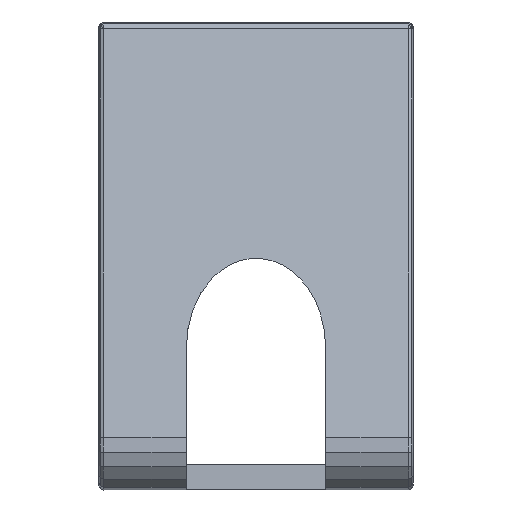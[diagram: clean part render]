
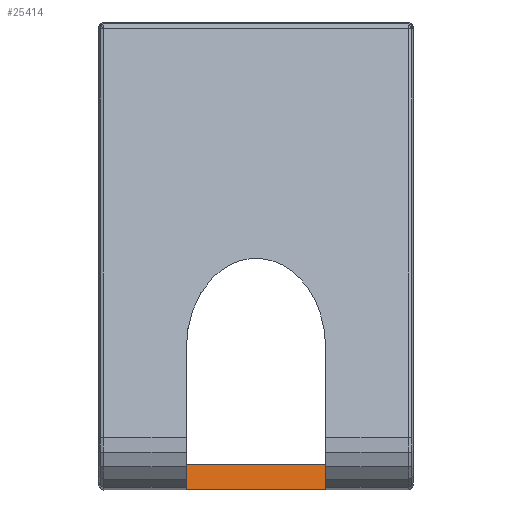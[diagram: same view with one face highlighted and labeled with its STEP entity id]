
A CAD part, left-side view. The second image highlights one B-rep face of the part: STEP entity #25414.
In plain terms, the highlighted planar face has unit normal (-0.414, -0.001, 0.91).
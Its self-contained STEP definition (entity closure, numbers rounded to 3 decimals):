
#838 = PLANE('',#839);
#839 = AXIS2_PLACEMENT_3D('',#840,#841,#842);
#840 = CARTESIAN_POINT('',(-26.248,15.067,-25.934));
#841 = DIRECTION('',(-0.,1.,0.));
#842 = DIRECTION('',(0.,0.,-1.));
#1358 = PLANE('',#1359);
#1359 = AXIS2_PLACEMENT_3D('',#1360,#1361,#1362);
#1360 = CARTESIAN_POINT('',(-26.242,-15.067,-25.934));
#1361 = DIRECTION('',(-0.,-1.,0.));
#1362 = DIRECTION('',(-0.,0.,1.));
#1438 = PLANE('',#1439);
#1439 = AXIS2_PLACEMENT_3D('',#1440,#1441,#1442);
#1440 = CARTESIAN_POINT('',(12.082,8.011,
    -30.874));
#1441 = DIRECTION('',(0.,0.,
    1.));
#1442 = DIRECTION('',(0.,1.,0.));
#1463 = VERTEX_POINT('',#1464);
#1464 = CARTESIAN_POINT('',(10.028,15.067,
    -30.874));
#1485 = EDGE_CURVE('',#1463,#1486,#1488,.T.);
#1486 = VERTEX_POINT('',#1487);
#1487 = CARTESIAN_POINT('',(10.083,-15.067,
    -30.874));
#1488 = SURFACE_CURVE('',#1489,(#1493,#1500),.PCURVE_S1.);
#1489 = LINE('',#1490,#1491);
#1490 = CARTESIAN_POINT('',(10.028,15.067,
    -30.874));
#1491 = VECTOR('',#1492,1.);
#1492 = DIRECTION('',(0.002,-1.,
    0.));
#1493 = PCURVE('',#1438,#1494);
#1494 = DEFINITIONAL_REPRESENTATION('',(#1495),#1499);
#1495 = LINE('',#1496,#1497);
#1496 = CARTESIAN_POINT('',(7.056,2.054));
#1497 = VECTOR('',#1498,1.);
#1498 = DIRECTION('',(-1.,-0.002));
#1499 = ( GEOMETRIC_REPRESENTATION_CONTEXT(2) 
PARAMETRIC_REPRESENTATION_CONTEXT() REPRESENTATION_CONTEXT('2D SPACE',''
  ) );
#1500 = PCURVE('',#1501,#1506);
#1501 = PLANE('',#1502);
#1502 = AXIS2_PLACEMENT_3D('',#1503,#1504,#1505);
#1503 = CARTESIAN_POINT('',(5.949,5.022,
    -32.739));
#1504 = DIRECTION('',(0.414,0.001,-0.91)
  );
#1505 = DIRECTION('',(0.,-1.,-0.001));
#1506 = DEFINITIONAL_REPRESENTATION('',(#1507),#1511);
#1507 = LINE('',#1508,#1509);
#1508 = CARTESIAN_POINT('',(-10.046,-4.482));
#1509 = VECTOR('',#1510,1.);
#1510 = DIRECTION('',(1.,-0.002));
#1511 = ( GEOMETRIC_REPRESENTATION_CONTEXT(2) 
PARAMETRIC_REPRESENTATION_CONTEXT() REPRESENTATION_CONTEXT('2D SPACE',''
  ) );
#1660 = PLANE('',#1661);
#1661 = AXIS2_PLACEMENT_3D('',#1662,#1663,#1664);
#1662 = CARTESIAN_POINT('',(11.621,-11.,-36.468));
#1663 = DIRECTION('',(0.,0.,1.));
#1664 = DIRECTION('',(0.,1.,0.));
#1797 = VERTEX_POINT('',#1798);
#1798 = CARTESIAN_POINT('',(-2.21,-15.067,
    -36.468));
#1819 = EDGE_CURVE('',#1797,#1820,#1822,.T.);
#1820 = VERTEX_POINT('',#1821);
#1821 = CARTESIAN_POINT('',(-2.264,15.067,-36.468));
#1822 = SURFACE_CURVE('',#1823,(#1827,#1834),.PCURVE_S1.);
#1823 = LINE('',#1824,#1825);
#1824 = CARTESIAN_POINT('',(-2.21,-15.067,
    -36.468));
#1825 = VECTOR('',#1826,1.);
#1826 = DIRECTION('',(-0.002,1.,
    0.));
#1827 = PCURVE('',#1660,#1828);
#1828 = DEFINITIONAL_REPRESENTATION('',(#1829),#1833);
#1829 = LINE('',#1830,#1831);
#1830 = CARTESIAN_POINT('',(-4.067,13.83));
#1831 = VECTOR('',#1832,1.);
#1832 = DIRECTION('',(1.,0.002));
#1833 = ( GEOMETRIC_REPRESENTATION_CONTEXT(2) 
PARAMETRIC_REPRESENTATION_CONTEXT() REPRESENTATION_CONTEXT('2D SPACE',''
  ) );
#1834 = PCURVE('',#1501,#1835);
#1835 = DEFINITIONAL_REPRESENTATION('',(#1836),#1840);
#1836 = LINE('',#1837,#1838);
#1837 = CARTESIAN_POINT('',(20.092,8.964));
#1838 = VECTOR('',#1839,1.);
#1839 = DIRECTION('',(-1.,0.002));
#1840 = ( GEOMETRIC_REPRESENTATION_CONTEXT(2) 
PARAMETRIC_REPRESENTATION_CONTEXT() REPRESENTATION_CONTEXT('2D SPACE',''
  ) );
#25270 = EDGE_CURVE('',#1820,#1463,#25271,.T.);
#25271 = SURFACE_CURVE('',#25272,(#25276,#25283),.PCURVE_S1.);
#25272 = LINE('',#25273,#25274);
#25273 = CARTESIAN_POINT('',(-2.264,15.067,-36.468));
#25274 = VECTOR('',#25275,1.);
#25275 = DIRECTION('',(0.91,0.,0.414)
  );
#25276 = PCURVE('',#838,#25277);
#25277 = DEFINITIONAL_REPRESENTATION('',(#25278),#25282);
#25278 = LINE('',#25279,#25280);
#25279 = CARTESIAN_POINT('',(10.534,-23.984));
#25280 = VECTOR('',#25281,1.);
#25281 = DIRECTION('',(-0.414,-0.91));
#25282 = ( GEOMETRIC_REPRESENTATION_CONTEXT(2) 
PARAMETRIC_REPRESENTATION_CONTEXT() REPRESENTATION_CONTEXT('2D SPACE',''
  ) );
#25283 = PCURVE('',#1501,#25284);
#25284 = DEFINITIONAL_REPRESENTATION('',(#25285),#25289);
#25285 = LINE('',#25286,#25287);
#25286 = CARTESIAN_POINT('',(-10.042,9.024));
#25287 = VECTOR('',#25288,1.);
#25288 = DIRECTION('',(0.,-1.));
#25289 = ( GEOMETRIC_REPRESENTATION_CONTEXT(2) 
PARAMETRIC_REPRESENTATION_CONTEXT() REPRESENTATION_CONTEXT('2D SPACE',''
  ) );
#25377 = EDGE_CURVE('',#1486,#1797,#25378,.T.);
#25378 = SURFACE_CURVE('',#25379,(#25383,#25390),.PCURVE_S1.);
#25379 = LINE('',#25380,#25381);
#25380 = CARTESIAN_POINT('',(10.083,-15.067,
    -30.874));
#25381 = VECTOR('',#25382,1.);
#25382 = DIRECTION('',(-0.91,0.,
    -0.414));
#25383 = PCURVE('',#1358,#25384);
#25384 = DEFINITIONAL_REPRESENTATION('',(#25385),#25389);
#25385 = LINE('',#25386,#25387);
#25386 = CARTESIAN_POINT('',(-4.94,-36.324));
#25387 = VECTOR('',#25388,1.);
#25388 = DIRECTION('',(-0.414,0.91));
#25389 = ( GEOMETRIC_REPRESENTATION_CONTEXT(2) 
PARAMETRIC_REPRESENTATION_CONTEXT() REPRESENTATION_CONTEXT('2D SPACE',''
  ) );
#25390 = PCURVE('',#1501,#25391);
#25391 = DEFINITIONAL_REPRESENTATION('',(#25392),#25396);
#25392 = LINE('',#25393,#25394);
#25393 = CARTESIAN_POINT('',(20.088,-4.542));
#25394 = VECTOR('',#25395,1.);
#25395 = DIRECTION('',(0.,1.));
#25396 = ( GEOMETRIC_REPRESENTATION_CONTEXT(2) 
PARAMETRIC_REPRESENTATION_CONTEXT() REPRESENTATION_CONTEXT('2D SPACE',''
  ) );
#25414 = ADVANCED_FACE('',(#25415),#1501,.F.);
#25415 = FACE_BOUND('',#25416,.T.);
#25416 = EDGE_LOOP('',(#25417,#25418,#25419,#25420));
#25417 = ORIENTED_EDGE('',*,*,#25270,.F.);
#25418 = ORIENTED_EDGE('',*,*,#1819,.F.);
#25419 = ORIENTED_EDGE('',*,*,#25377,.F.);
#25420 = ORIENTED_EDGE('',*,*,#1485,.F.);
